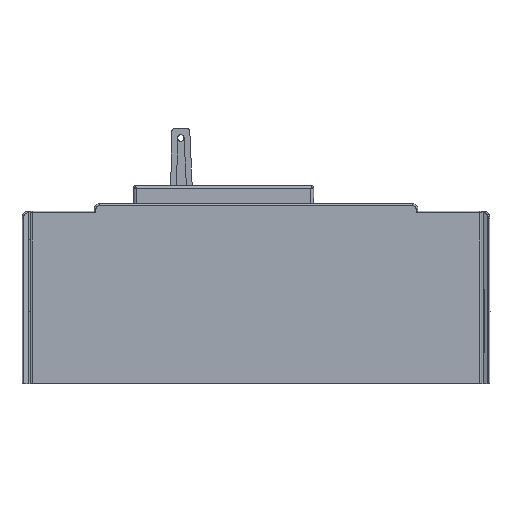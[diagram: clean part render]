
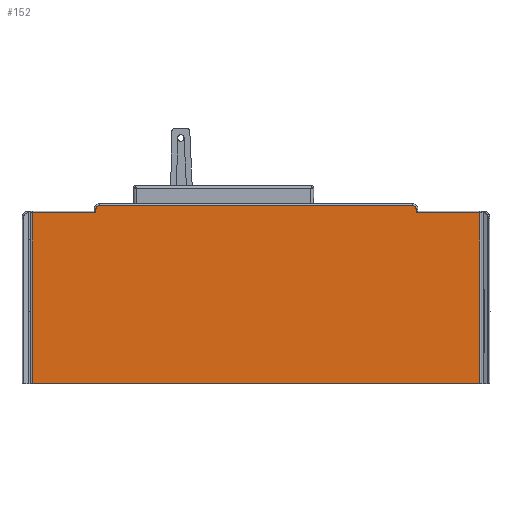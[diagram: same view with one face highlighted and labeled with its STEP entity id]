
A CAD part, left-side view. The second image highlights one B-rep face of the part: STEP entity #152.
In plain terms, the highlighted planar face has unit normal (-1, 0, 0).
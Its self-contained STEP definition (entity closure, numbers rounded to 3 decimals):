
#95 = EDGE_CURVE ( 'NONE', #4824, #974, #1051, .T. ) ;
#152 = ADVANCED_FACE ( 'NONE', ( #6128 ), #4427, .F. ) ;
#155 = ORIENTED_EDGE ( 'NONE', *, *, #5052, .T. ) ;
#289 = CARTESIAN_POINT ( 'NONE',  ( -25., 62.2, 55. ) ) ;
#326 = EDGE_CURVE ( 'NONE', #866, #6710, #5176, .T. ) ;
#481 = CARTESIAN_POINT ( 'NONE',  ( -25., 0., 0. ) ) ;
#583 = EDGE_CURVE ( 'NONE', #2401, #4824, #3110, .T. ) ;
#670 = CARTESIAN_POINT ( 'NONE',  ( -25., 44.5, 48.5 ) ) ;
#786 = CARTESIAN_POINT ( 'NONE',  ( -25., -62.2, 0. ) ) ;
#830 = LINE ( 'NONE', #7395, #5006 ) ;
#862 = VECTOR ( 'NONE', #3094, 1000. ) ;
#866 = VERTEX_POINT ( 'NONE', #2419 ) ;
#974 = VERTEX_POINT ( 'NONE', #6373 ) ;
#975 = CARTESIAN_POINT ( 'NONE',  ( -25., -43.5, 49.5 ) ) ;
#1051 = LINE ( 'NONE', #6207, #6939 ) ;
#1112 = DIRECTION ( 'NONE',  ( 1., 0., 0. ) ) ;
#1333 = CIRCLE ( 'NONE', #5788, 1. ) ;
#1389 = CARTESIAN_POINT ( 'NONE',  ( -25., 62.2, 0. ) ) ;
#1522 = VECTOR ( 'NONE', #2425, 1000. ) ;
#1602 = ORIENTED_EDGE ( 'NONE', *, *, #6019, .F. ) ;
#1637 = CARTESIAN_POINT ( 'NONE',  ( -25., 43.5, 48.5 ) ) ;
#1800 = CARTESIAN_POINT ( 'NONE',  ( -25., -44.5, 48.5 ) ) ;
#1808 = VERTEX_POINT ( 'NONE', #1800 ) ;
#1861 = CARTESIAN_POINT ( 'NONE',  ( -25., -43.5, 48.5 ) ) ;
#2218 = EDGE_CURVE ( 'NONE', #3206, #3765, #7045, .T. ) ;
#2401 = VERTEX_POINT ( 'NONE', #670 ) ;
#2419 = CARTESIAN_POINT ( 'NONE',  ( -25., -62.2, 47.5 ) ) ;
#2425 = DIRECTION ( 'NONE',  ( 0., 1., 0. ) ) ;
#2447 = EDGE_CURVE ( 'NONE', #1808, #3206, #1333, .T. ) ;
#2463 = VERTEX_POINT ( 'NONE', #786 ) ;
#2878 = CARTESIAN_POINT ( 'NONE',  ( -25., 44.5, 47.5 ) ) ;
#3018 = CARTESIAN_POINT ( 'NONE',  ( -25., -44.5, 47.5 ) ) ;
#3068 = DIRECTION ( 'NONE',  ( 0., 0., -1. ) ) ;
#3094 = DIRECTION ( 'NONE',  ( 0., 0., -1. ) ) ;
#3110 = LINE ( 'NONE', #6106, #5880 ) ;
#3183 = ORIENTED_EDGE ( 'NONE', *, *, #95, .T. ) ;
#3206 = VERTEX_POINT ( 'NONE', #975 ) ;
#3408 = CARTESIAN_POINT ( 'NONE',  ( -25., 43.5, 49.5 ) ) ;
#3676 = ORIENTED_EDGE ( 'NONE', *, *, #2447, .T. ) ;
#3765 = VERTEX_POINT ( 'NONE', #3408 ) ;
#3786 = DIRECTION ( 'NONE',  ( 0., 0., -1. ) ) ;
#4085 = VECTOR ( 'NONE', #6112, 1000. ) ;
#4122 = LINE ( 'NONE', #7264, #4485 ) ;
#4134 = ORIENTED_EDGE ( 'NONE', *, *, #583, .T. ) ;
#4176 = CARTESIAN_POINT ( 'NONE',  ( -25., -44.5, 47.5 ) ) ;
#4282 = VERTEX_POINT ( 'NONE', #1389 ) ;
#4427 = PLANE ( 'NONE',  #5484 ) ;
#4485 = VECTOR ( 'NONE', #7236, 1000. ) ;
#4500 = VECTOR ( 'NONE', #6000, 1000. ) ;
#4515 = DIRECTION ( 'NONE',  ( -1., 0., 0. ) ) ;
#4538 = DIRECTION ( 'NONE',  ( 0., 0., -1. ) ) ;
#4552 = EDGE_LOOP ( 'NONE', ( #4134, #3183, #155, #6614, #1602, #6629, #5434, #3676, #5180, #4972 ) ) ;
#4824 = VERTEX_POINT ( 'NONE', #2878 ) ;
#4972 = ORIENTED_EDGE ( 'NONE', *, *, #6502, .T. ) ;
#5006 = VECTOR ( 'NONE', #6930, 1000. ) ;
#5021 = EDGE_CURVE ( 'NONE', #6710, #1808, #6728, .T. ) ;
#5052 = EDGE_CURVE ( 'NONE', #974, #4282, #6378, .T. ) ;
#5176 = LINE ( 'NONE', #3018, #1522 ) ;
#5180 = ORIENTED_EDGE ( 'NONE', *, *, #2218, .T. ) ;
#5423 = CARTESIAN_POINT ( 'NONE',  ( -25., -44.5, 48.5 ) ) ;
#5434 = ORIENTED_EDGE ( 'NONE', *, *, #5021, .T. ) ;
#5478 = CARTESIAN_POINT ( 'NONE',  ( -25., 43.5, 49.5 ) ) ;
#5484 = AXIS2_PLACEMENT_3D ( 'NONE', #481, #1112, #4538 ) ;
#5651 = CIRCLE ( 'NONE', #5672, 1. ) ;
#5672 = AXIS2_PLACEMENT_3D ( 'NONE', #1637, #4515, #6784 ) ;
#5788 = AXIS2_PLACEMENT_3D ( 'NONE', #1861, #5893, #3068 ) ;
#5880 = VECTOR ( 'NONE', #3786, 1000. ) ;
#5893 = DIRECTION ( 'NONE',  ( -1., 0., 0. ) ) ;
#6000 = DIRECTION ( 'NONE',  ( 0., 0., 1. ) ) ;
#6019 = EDGE_CURVE ( 'NONE', #866, #2463, #4122, .T. ) ;
#6106 = CARTESIAN_POINT ( 'NONE',  ( -25., 44.5, 48. ) ) ;
#6112 = DIRECTION ( 'NONE',  ( 0., 1., 0. ) ) ;
#6128 = FACE_OUTER_BOUND ( 'NONE', #4552, .T. ) ;
#6207 = CARTESIAN_POINT ( 'NONE',  ( -25., 62.2, 47.5 ) ) ;
#6373 = CARTESIAN_POINT ( 'NONE',  ( -25., 62.2, 47.5 ) ) ;
#6378 = LINE ( 'NONE', #289, #862 ) ;
#6502 = EDGE_CURVE ( 'NONE', #3765, #2401, #5651, .T. ) ;
#6614 = ORIENTED_EDGE ( 'NONE', *, *, #7056, .F. ) ;
#6629 = ORIENTED_EDGE ( 'NONE', *, *, #326, .T. ) ;
#6710 = VERTEX_POINT ( 'NONE', #4176 ) ;
#6728 = LINE ( 'NONE', #5423, #4500 ) ;
#6784 = DIRECTION ( 'NONE',  ( 0., 0., -1. ) ) ;
#6930 = DIRECTION ( 'NONE',  ( 0., 1., 0. ) ) ;
#6939 = VECTOR ( 'NONE', #7249, 1000. ) ;
#7045 = LINE ( 'NONE', #5478, #4085 ) ;
#7056 = EDGE_CURVE ( 'NONE', #2463, #4282, #830, .T. ) ;
#7236 = DIRECTION ( 'NONE',  ( 0., 0., -1. ) ) ;
#7249 = DIRECTION ( 'NONE',  ( 0., 1., 0. ) ) ;
#7264 = CARTESIAN_POINT ( 'NONE',  ( -25., -62.2, 55. ) ) ;
#7395 = CARTESIAN_POINT ( 'NONE',  ( -25., 0., 0. ) ) ;
